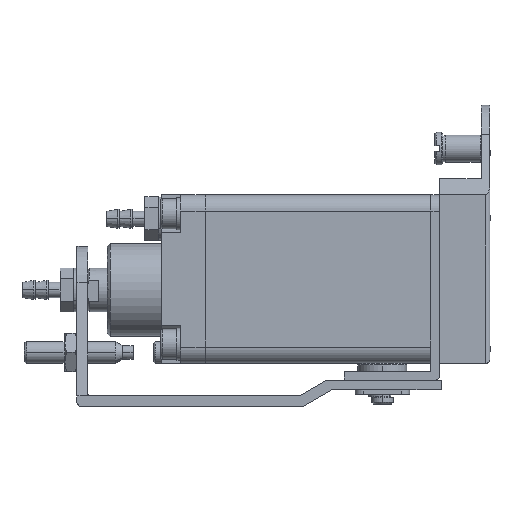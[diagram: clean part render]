
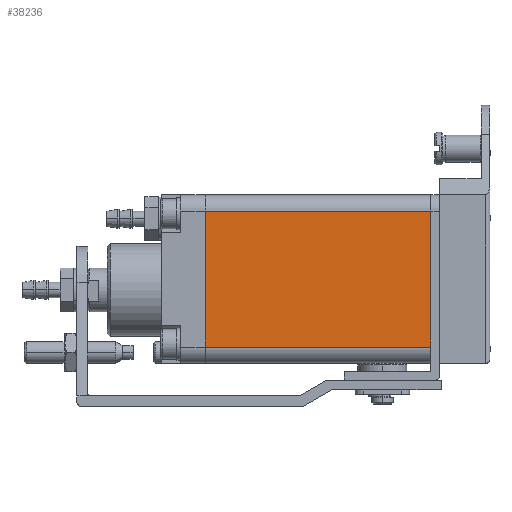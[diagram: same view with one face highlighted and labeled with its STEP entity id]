
A CAD part, left-side view. The second image highlights one B-rep face of the part: STEP entity #38236.
In plain terms, the highlighted planar face has unit normal (-1, 0, 0).
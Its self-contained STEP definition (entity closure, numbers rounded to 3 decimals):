
#17 = CARTESIAN_POINT ( 'NONE',  ( -11.5, 0., -12.5 ) ) ;
#1272 = DIRECTION ( 'NONE',  ( 0., 1., 0. ) ) ;
#2146 = EDGE_CURVE ( 'NONE', #36756, #40356, #31105, .T. ) ;
#3525 = DIRECTION ( 'NONE',  ( 0., 0., 1. ) ) ;
#5284 = LINE ( 'NONE', #42003, #21778 ) ;
#6979 = EDGE_LOOP ( 'NONE', ( #20865, #20109, #18470, #19756 ) ) ;
#7459 = DIRECTION ( 'NONE',  ( 0., 1., 0. ) ) ;
#9250 = DIRECTION ( 'NONE',  ( 0., 0., -1. ) ) ;
#13125 = VERTEX_POINT ( 'NONE', #30157 ) ;
#14681 = CARTESIAN_POINT ( 'NONE',  ( -11.5, -4.15, -15. ) ) ;
#15446 = EDGE_CURVE ( 'NONE', #40356, #13125, #17004, .T. ) ;
#17004 = LINE ( 'NONE', #27203, #42265 ) ;
#17850 = PLANE ( 'NONE',  #24062 ) ;
#17983 = DIRECTION ( 'NONE',  ( 0., 0., 1. ) ) ;
#18470 = ORIENTED_EDGE ( 'NONE', *, *, #32729, .T. ) ;
#19756 = ORIENTED_EDGE ( 'NONE', *, *, #32532, .F. ) ;
#20109 = ORIENTED_EDGE ( 'NONE', *, *, #15446, .T. ) ;
#20865 = ORIENTED_EDGE ( 'NONE', *, *, #2146, .T. ) ;
#21778 = VECTOR ( 'NONE', #9250, 1000. ) ;
#23246 = CARTESIAN_POINT ( 'NONE',  ( -11.5, 0., 0. ) ) ;
#24062 = AXIS2_PLACEMENT_3D ( 'NONE', #14681, #37746, #17983 ) ;
#27203 = CARTESIAN_POINT ( 'NONE',  ( -11.5, 20.75, 12.5 ) ) ;
#30157 = CARTESIAN_POINT ( 'NONE',  ( -11.5, 41.5, 12.5 ) ) ;
#30596 = VECTOR ( 'NONE', #1272, 1000. ) ;
#31105 = LINE ( 'NONE', #23246, #40937 ) ;
#31591 = VERTEX_POINT ( 'NONE', #35492 ) ;
#32532 = EDGE_CURVE ( 'NONE', #36756, #31591, #39364, .T. ) ;
#32729 = EDGE_CURVE ( 'NONE', #13125, #31591, #5284, .T. ) ;
#34543 = CARTESIAN_POINT ( 'NONE',  ( -11.5, 0., 12.5 ) ) ;
#35492 = CARTESIAN_POINT ( 'NONE',  ( -11.5, 41.5, -12.5 ) ) ;
#36756 = VERTEX_POINT ( 'NONE', #17 ) ;
#37746 = DIRECTION ( 'NONE',  ( -1., 0., 0. ) ) ;
#38236 = ADVANCED_FACE ( 'NONE', ( #40010 ), #17850, .T. ) ;
#39364 = LINE ( 'NONE', #40757, #30596 ) ;
#40010 = FACE_OUTER_BOUND ( 'NONE', #6979, .T. ) ;
#40356 = VERTEX_POINT ( 'NONE', #34543 ) ;
#40757 = CARTESIAN_POINT ( 'NONE',  ( -11.5, 20.75, -12.5 ) ) ;
#40937 = VECTOR ( 'NONE', #3525, 1000. ) ;
#42003 = CARTESIAN_POINT ( 'NONE',  ( -11.5, 41.5, 0. ) ) ;
#42265 = VECTOR ( 'NONE', #7459, 1000. ) ;
